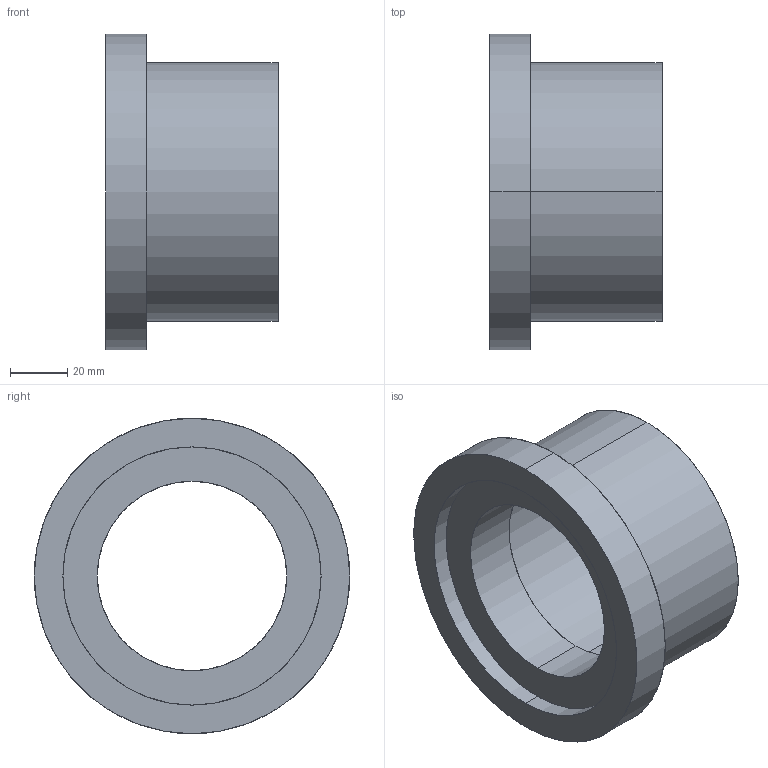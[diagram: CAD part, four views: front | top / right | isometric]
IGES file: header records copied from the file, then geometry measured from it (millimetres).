
Start section: SolidWorks IGES file using analytic representation for surfaces
Global section: file name: \\Datacenterrd1\@研發部\設計一課(冷媒)\(1)-文管中心\(2)-3D文管\(8)-Compressor 3Doutline(Surface)\Pipe\IGS\2 1-2(2 1-2鋼管用).IGS; native system: SolidWorks 2013; preprocessor: SolidWorks 2013; author: hedylu; date: 140715.084414; units: millimetre
Bounding box: 60 x 110 x 110 mm (x, y, z)
Surface area: 43725.4 mm2 (no closed solid volume)
Topology: 0 solids, 0 shells, 19 faces, 696 edges, 696 vertices
Faces by surface type: revolution 12, bspline 7
